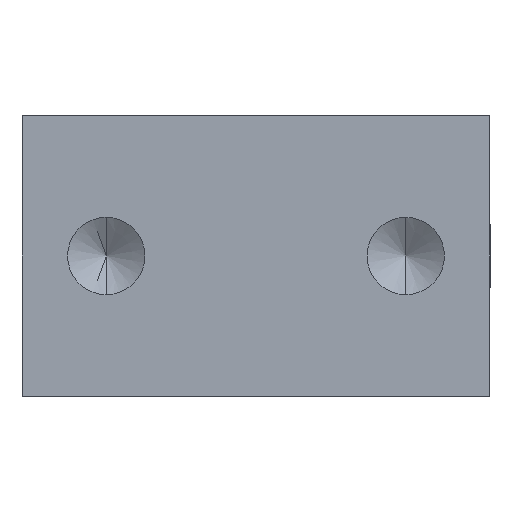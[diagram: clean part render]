
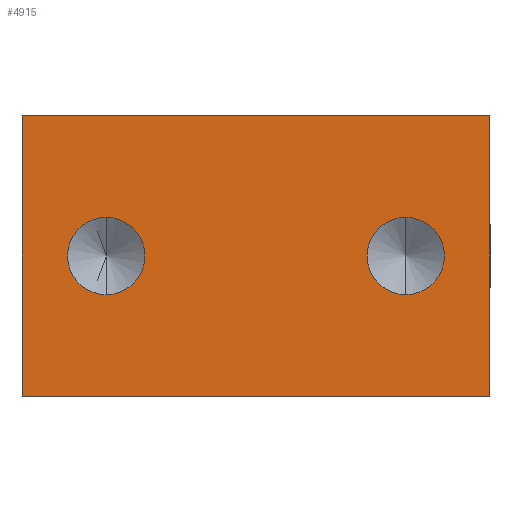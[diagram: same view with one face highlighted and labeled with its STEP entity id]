
A CAD part, left-side view. The second image highlights one B-rep face of the part: STEP entity #4915.
In plain terms, the highlighted planar face has unit normal (-1, 0, 0).
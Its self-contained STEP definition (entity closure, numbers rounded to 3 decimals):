
#176 = ORIENTED_EDGE ( 'NONE', *, *, #183, .T. ) ;
#183 = EDGE_CURVE ( 'NONE', #5108, #4202, #1092, .T. ) ;
#1057 = CIRCLE ( 'NONE', #1058, 2.067 ) ;
#1058 = AXIS2_PLACEMENT_3D ( 'NONE', #1059, #1060, #1061 ) ;
#1059 = CARTESIAN_POINT ( 'NONE',  ( 0., -8., 0. ) ) ;
#1060 = DIRECTION ( 'NONE',  ( 1., 0., 0. ) ) ;
#1061 = DIRECTION ( 'NONE',  ( 0., 0., 1. ) ) ;
#1092 = CIRCLE ( 'NONE', #1093, 2.067 ) ;
#1093 = AXIS2_PLACEMENT_3D ( 'NONE', #1094, #1095, #1096 ) ;
#1094 = CARTESIAN_POINT ( 'NONE',  ( 0., 8., 0. ) ) ;
#1095 = DIRECTION ( 'NONE',  ( 1., 0., 0. ) ) ;
#1096 = DIRECTION ( 'NONE',  ( 0., 0., 1. ) ) ;
#1395 = CIRCLE ( 'NONE', #1396, 2.067 ) ;
#1396 = AXIS2_PLACEMENT_3D ( 'NONE', #1397, #1398, #1399 ) ;
#1397 = CARTESIAN_POINT ( 'NONE',  ( 0., 8., 0. ) ) ;
#1398 = DIRECTION ( 'NONE',  ( 1., 0., 0. ) ) ;
#1399 = DIRECTION ( 'NONE',  ( 0., 0., 1. ) ) ;
#1639 = LINE ( 'NONE', #1640, #1641 ) ;
#1640 = CARTESIAN_POINT ( 'NONE',  ( 0., 12.5, 7.5 ) ) ;
#1641 = VECTOR ( 'NONE', #1642, 1000. ) ;
#1642 = DIRECTION ( 'NONE',  ( 0., 0., -1. ) ) ;
#1656 = ORIENTED_EDGE ( 'NONE', *, *, #4855, .T. ) ;
#1667 = CARTESIAN_POINT ( 'NONE',  ( 0., -5.933, 0. ) ) ;
#1798 = CARTESIAN_POINT ( 'NONE',  ( 0., 12.5, -7.5 ) ) ;
#1847 = FACE_BOUND ( 'NONE', #5273, .T. ) ;
#1848 = FACE_BOUND ( 'NONE', #5390, .T. ) ;
#1849 = FACE_OUTER_BOUND ( 'NONE', #5284, .T. ) ;
#1850 = PLANE ( 'NONE',  #1851 ) ;
#1851 = AXIS2_PLACEMENT_3D ( 'NONE', #1852, #1853, #1854 ) ;
#1852 = CARTESIAN_POINT ( 'NONE',  ( 0., -12.5, 0. ) ) ;
#1853 = DIRECTION ( 'NONE',  ( -1., 0., 0. ) ) ;
#1854 = DIRECTION ( 'NONE',  ( 0., 0., 1. ) ) ;
#1992 = LINE ( 'NONE', #1993, #1994 ) ;
#1993 = CARTESIAN_POINT ( 'NONE',  ( 0., 12.5, -7.5 ) ) ;
#1994 = VECTOR ( 'NONE', #1995, 1000. ) ;
#1995 = DIRECTION ( 'NONE',  ( 0., -1., 0. ) ) ;
#2161 = EDGE_CURVE ( 'NONE', #5437, #4348, #3264, .T. ) ;
#2201 = CARTESIAN_POINT ( 'NONE',  ( 0., -12.5, -7.5 ) ) ;
#2419 = CARTESIAN_POINT ( 'NONE',  ( 0., -10.067, 0. ) ) ;
#2591 = LINE ( 'NONE', #2592, #2593 ) ;
#2592 = CARTESIAN_POINT ( 'NONE',  ( 0., -12.5, -7.5 ) ) ;
#2593 = VECTOR ( 'NONE', #2594, 1000. ) ;
#2594 = DIRECTION ( 'NONE',  ( 0., 0., 1. ) ) ;
#2811 = VERTEX_POINT ( 'NONE', #3538 ) ;
#3264 = CIRCLE ( 'NONE', #3265, 2.067 ) ;
#3265 = AXIS2_PLACEMENT_3D ( 'NONE', #3266, #3267, #3268 ) ;
#3266 = CARTESIAN_POINT ( 'NONE',  ( 0., -8., 0. ) ) ;
#3267 = DIRECTION ( 'NONE',  ( 1., 0., 0. ) ) ;
#3268 = DIRECTION ( 'NONE',  ( 0., 0., 1. ) ) ;
#3307 = CARTESIAN_POINT ( 'NONE',  ( 0., 10.067, 0. ) ) ;
#3538 = CARTESIAN_POINT ( 'NONE',  ( 0., 12.5, 7.5 ) ) ;
#3847 = LINE ( 'NONE', #3848, #3849 ) ;
#3848 = CARTESIAN_POINT ( 'NONE',  ( 0., -12.5, 7.5 ) ) ;
#3849 = VECTOR ( 'NONE', #3850, 1000. ) ;
#3850 = DIRECTION ( 'NONE',  ( 0., 1., 0. ) ) ;
#3945 = CARTESIAN_POINT ( 'NONE',  ( 0., -12.5, 7.5 ) ) ;
#4161 = CARTESIAN_POINT ( 'NONE',  ( 0., 5.933, 0. ) ) ;
#4202 = VERTEX_POINT ( 'NONE', #4161 ) ;
#4348 = VERTEX_POINT ( 'NONE', #1667 ) ;
#4358 = ORIENTED_EDGE ( 'NONE', *, *, #4396, .T. ) ;
#4396 = EDGE_CURVE ( 'NONE', #5379, #4427, #1992, .T. ) ;
#4427 = VERTEX_POINT ( 'NONE', #2201 ) ;
#4470 = ORIENTED_EDGE ( 'NONE', *, *, #4494, .T. ) ;
#4494 = EDGE_CURVE ( 'NONE', #4427, #5254, #2591, .T. ) ;
#4662 = ORIENTED_EDGE ( 'NONE', *, *, #5230, .T. ) ;
#4695 = ORIENTED_EDGE ( 'NONE', *, *, #5360, .T. ) ;
#4764 = EDGE_CURVE ( 'NONE', #4348, #5437, #1057, .T. ) ;
#4814 = ORIENTED_EDGE ( 'NONE', *, *, #2161, .T. ) ;
#4855 = EDGE_CURVE ( 'NONE', #4202, #5108, #1395, .T. ) ;
#4915 = ADVANCED_FACE ( 'NONE', ( #1847, #1848, #1849 ), #1850, .T. ) ;
#5108 = VERTEX_POINT ( 'NONE', #3307 ) ;
#5230 = EDGE_CURVE ( 'NONE', #5254, #2811, #3847, .T. ) ;
#5254 = VERTEX_POINT ( 'NONE', #3945 ) ;
#5273 = EDGE_LOOP ( 'NONE', ( #5429, #4814 ) ) ;
#5284 = EDGE_LOOP ( 'NONE', ( #4662, #4695, #4358, #4470 ) ) ;
#5360 = EDGE_CURVE ( 'NONE', #2811, #5379, #1639, .T. ) ;
#5379 = VERTEX_POINT ( 'NONE', #1798 ) ;
#5390 = EDGE_LOOP ( 'NONE', ( #176, #1656 ) ) ;
#5429 = ORIENTED_EDGE ( 'NONE', *, *, #4764, .T. ) ;
#5437 = VERTEX_POINT ( 'NONE', #2419 ) ;
